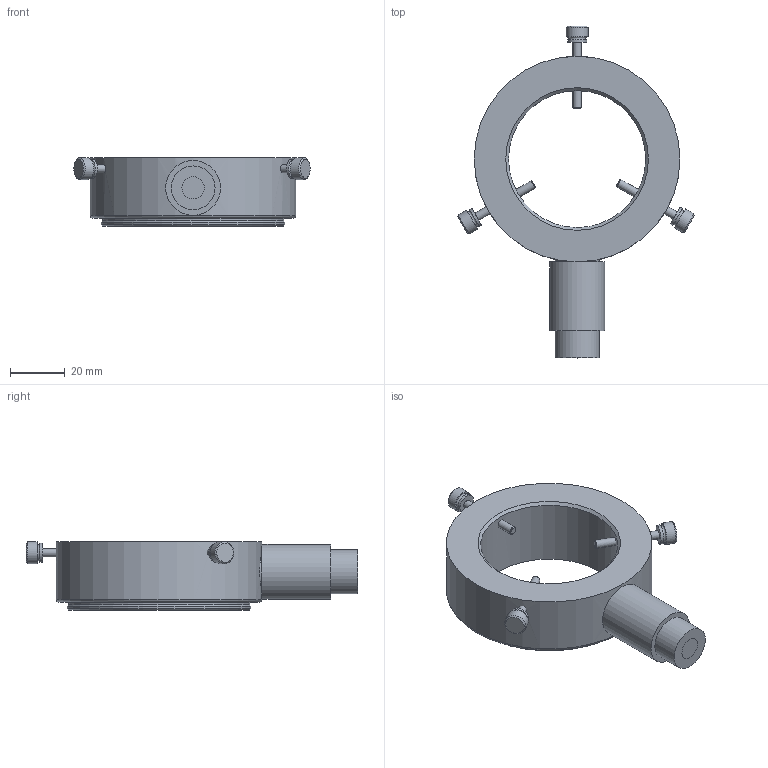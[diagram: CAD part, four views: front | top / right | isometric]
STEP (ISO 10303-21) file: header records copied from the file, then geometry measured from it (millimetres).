
FILE_DESCRIPTION(/* description */ (''),/* implementation_level */ '2;1');
FILE_NAME(/* name */ '',/* time_stamp */ '2023-04-11T14:24:16+09:00',/* author */ (''),/* organization */ (''),/* preprocessor_version */ 'ST-DEVELOPER v19.2',/* originating_system */ 'Autodesk Translation Framework v11.17.0.187',/* authorisation */ '');
FILE_SCHEMA (('AUTOMOTIVE_DESIGN { 1 0 10303 214 3 1 1 }'));
Length unit declared in the file: millimetre
Products named in the file (1): R50 共通照射部
Bounding box: 86.23 x 121 x 25 mm (x, y, z)
Volume: 69551.3 mm3; surface area: 21410.3 mm2
Topology: 6 solids, 6 shells, 61 faces, 112 edges, 71 vertices
Faces by surface type: cylinder 24, plane 24, cone 9, torus 4
Full cylindrical faces by diameter (mm): 2.529 x3, 3 x3, 7 x3, 8 x3, 8.1 x2, 16 x1, 20 x1, 50 x1, 53.85 x1, 54.15 x1, 66 x1, 67 x1, 75 x1
Entity records: 1787 total; most frequent: CARTESIAN_POINT 488, DIRECTION 283, ORIENTED_EDGE 226, AXIS2_PLACEMENT_3D 124, EDGE_CURVE 113, EDGE_LOOP 80, VERTEX_POINT 71, CIRCLE 62
